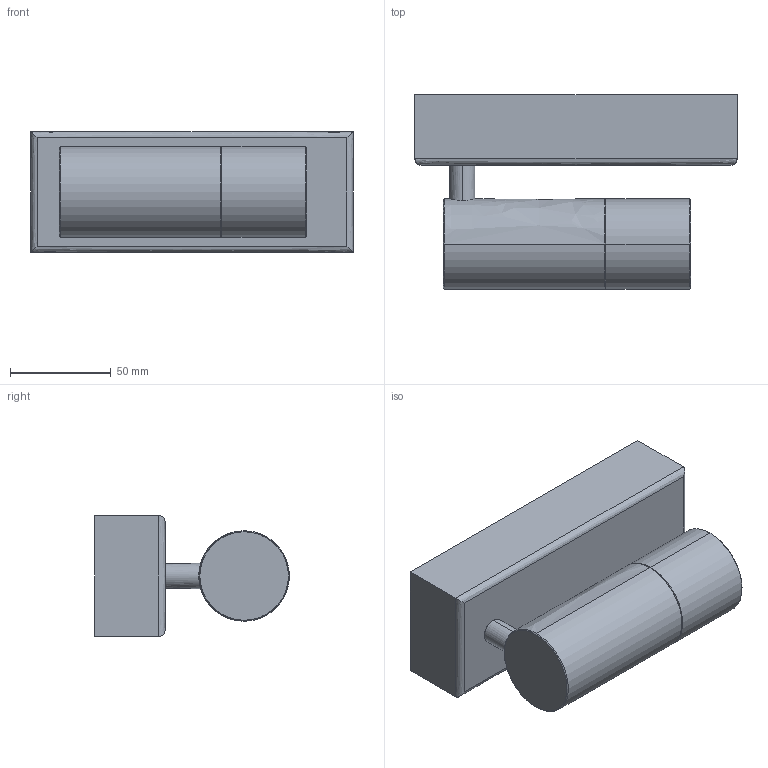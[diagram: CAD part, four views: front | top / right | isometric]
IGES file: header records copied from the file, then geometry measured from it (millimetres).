
Start section: SolidWorks IGES file using analytic representation for surfaces
Global section: file name: C:\Users\JoãoSantos\Desktop\02_3D.2D\01_2020\01_Spot On\04_Onit\02_Saliente\3D_OnitSaliente_Snoot42.IGS; native system: SolidWorks 2020; preprocessor: SolidWorks 2020; author: JoãoSantos; date: 201019.171404; units: millimetre
Bounding box: 160 x 96.8 x 60 mm (x, y, z)
Surface area: 55821.4 mm2 (no closed solid volume)
Topology: 0 solids, 0 shells, 35 faces, 542 edges, 542 vertices
Faces by surface type: revolution 26, bspline 9
